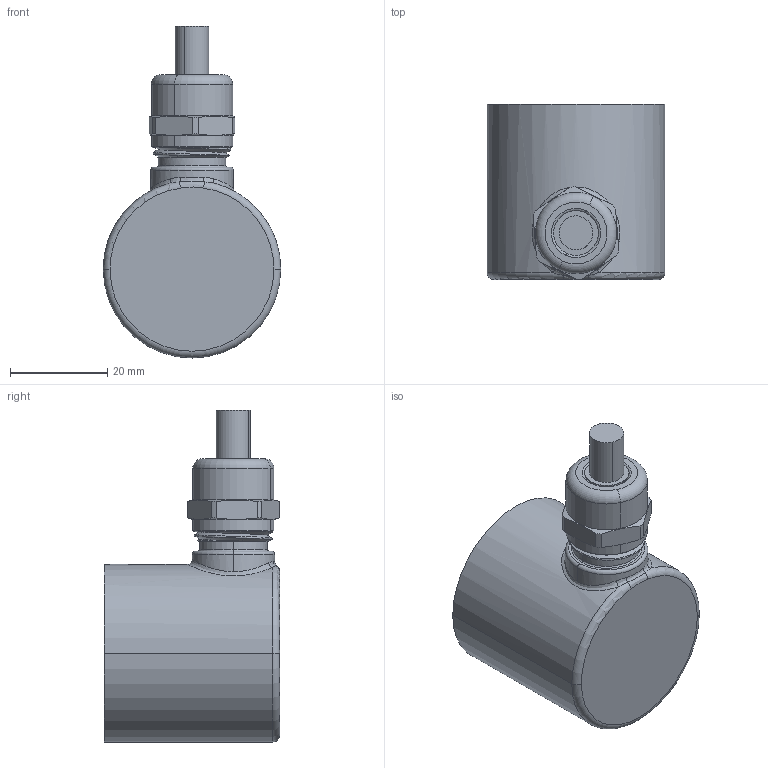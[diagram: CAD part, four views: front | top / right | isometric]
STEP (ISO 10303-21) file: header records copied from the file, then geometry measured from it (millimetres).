
FILE_DESCRIPTION (( 'STEP AP214' ), '1' );
FILE_NAME ('drawing-mc-3-cr-360-szm-nnnggf-n-2rc-n.STEP', '2025-04-08T12:01:32', ( '' ), ( '' ), 'SwSTEP 2.0', 'SolidWorks 2024', '' );
FILE_SCHEMA (( 'AUTOMOTIVE_DESIGN' ));
Length unit declared in the file: millimetre
Products named in the file (1): drawing-mc-3-cr-360-szm-nnnggf-n-2rc-n
Bounding box: 36.5 x 36 x 68.25 mm (x, y, z)
Volume: 6965.3 mm3; surface area: 14996.7 mm2
Topology: 5 solids, 5 shells, 298 faces, 815 edges, 531 vertices
Faces by surface type: plane 122, cylinder 113, torus 38, cone 17, bspline 8
Entity records: 13716 total; most frequent: CARTESIAN_POINT 6215, ORIENTED_EDGE 1630, DIRECTION 1542, EDGE_CURVE 815, AXIS2_PLACEMENT_3D 635, VERTEX_POINT 531, CIRCLE 344, EDGE_LOOP 308
